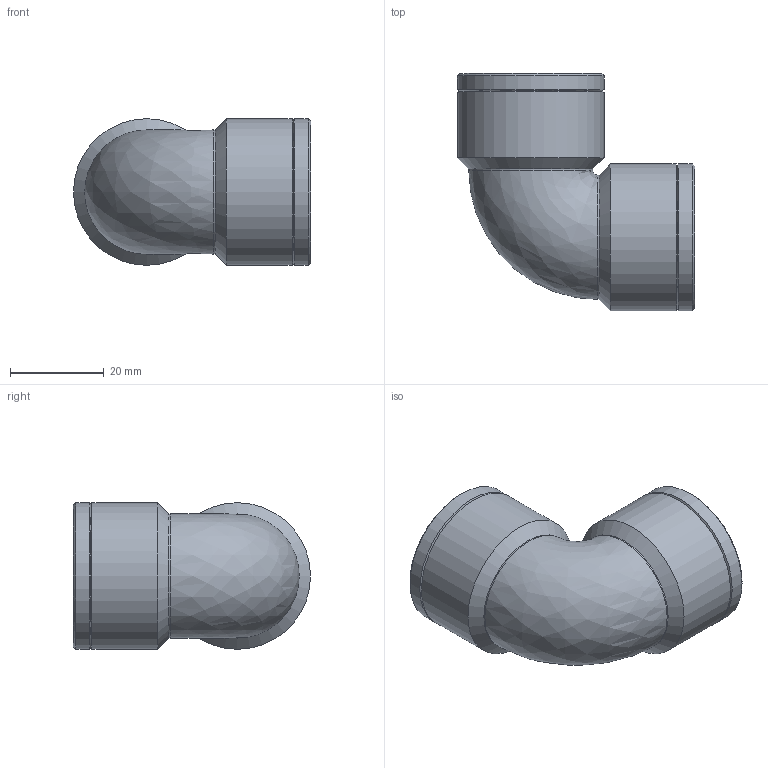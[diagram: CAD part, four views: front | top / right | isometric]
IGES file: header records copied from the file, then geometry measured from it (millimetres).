
Global section: file name: 050507007_0505070070A.ipt; native system: Autodesk Inventor 2015; preprocessor: unknown; author: KIM; date: 20170618.093213; units: millimetre
Bounding box: 50.68 x 50.68 x 31.35 mm (x, y, z)
Volume: 16802.6 mm3; surface area: 11487 mm2
Topology: 1 solids, 1 shells, 24 faces, 56 edges, 34 vertices
Faces by surface type: revolution 8, cone 8, cylinder 6, plane 2
Full cylindrical faces by diameter (mm): 26.529 x2, 31.352 x4
